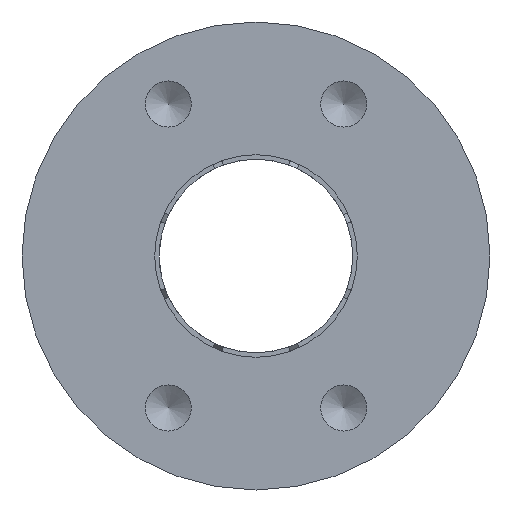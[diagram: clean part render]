
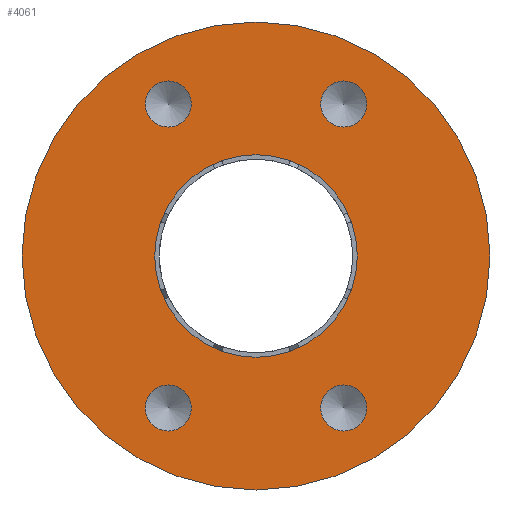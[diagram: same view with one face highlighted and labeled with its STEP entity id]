
A CAD part, front view. The second image highlights one B-rep face of the part: STEP entity #4061.
In plain terms, the highlighted planar face has unit normal (0, -1, 0) as drawn and (0, 0, 1) by its records, which use the part's own axes.
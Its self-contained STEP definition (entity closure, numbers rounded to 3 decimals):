
#59 = DIRECTION ( 'NONE',  ( 1., 0., 0. ) ) ;
#60 = FACE_BOUND ( 'NONE', #1750, .T. ) ;
#96 = CARTESIAN_POINT ( 'NONE',  ( 12.025, 16.498, 50.8 ) ) ;
#135 = DIRECTION ( 'NONE',  ( 0., 1., 0. ) ) ;
#310 = EDGE_CURVE ( 'NONE', #1662, #1662, #2676, .T. ) ;
#466 = CARTESIAN_POINT ( 'NONE',  ( -7.025, 16.498, 50.8 ) ) ;
#583 = CARTESIAN_POINT ( 'NONE',  ( 0., 0., 50.8 ) ) ;
#593 = DIRECTION ( 'NONE',  ( 0., 0., 1. ) ) ;
#691 = DIRECTION ( 'NONE',  ( 1., 0., 0. ) ) ;
#692 = EDGE_LOOP ( 'NONE', ( #2645 ) ) ;
#1126 = CARTESIAN_POINT ( 'NONE',  ( -9.525, 16.498, 50.8 ) ) ;
#1158 = CIRCLE ( 'NONE', #4084, 11. ) ;
#1417 = CIRCLE ( 'NONE', #4574, 2.5 ) ;
#1603 = FACE_BOUND ( 'NONE', #692, .T. ) ;
#1662 = VERTEX_POINT ( 'NONE', #4110 ) ;
#1750 = EDGE_LOOP ( 'NONE', ( #3904 ) ) ;
#2019 = AXIS2_PLACEMENT_3D ( 'NONE', #2372, #5461, #2408 ) ;
#2021 = AXIS2_PLACEMENT_3D ( 'NONE', #3207, #593, #691 ) ;
#2150 = DIRECTION ( 'NONE',  ( 0., 0., -1. ) ) ;
#2300 = CARTESIAN_POINT ( 'NONE',  ( -7.025, -16.498, 50.8 ) ) ;
#2372 = CARTESIAN_POINT ( 'NONE',  ( 0., 0., 50.8 ) ) ;
#2404 = EDGE_CURVE ( 'NONE', #2623, #2623, #4952, .T. ) ;
#2408 = DIRECTION ( 'NONE',  ( 0., 1., 0. ) ) ;
#2441 = EDGE_CURVE ( 'NONE', #5134, #5134, #5065, .T. ) ;
#2518 = ORIENTED_EDGE ( 'NONE', *, *, #2441, .F. ) ;
#2623 = VERTEX_POINT ( 'NONE', #6289 ) ;
#2642 = DIRECTION ( 'NONE',  ( 0., 0., 1. ) ) ;
#2645 = ORIENTED_EDGE ( 'NONE', *, *, #6645, .F. ) ;
#2676 = CIRCLE ( 'NONE', #2019, 25.4 ) ;
#2712 = CARTESIAN_POINT ( 'NONE',  ( -9.525, -16.498, 50.8 ) ) ;
#2781 = VERTEX_POINT ( 'NONE', #2300 ) ;
#2823 = EDGE_CURVE ( 'NONE', #5643, #5643, #3974, .T. ) ;
#3081 = VERTEX_POINT ( 'NONE', #5207 ) ;
#3110 = EDGE_CURVE ( 'NONE', #3081, #3081, #1158, .T. ) ;
#3167 = FACE_BOUND ( 'NONE', #6001, .T. ) ;
#3207 = CARTESIAN_POINT ( 'NONE',  ( 9.525, 16.498, 50.8 ) ) ;
#3220 = AXIS2_PLACEMENT_3D ( 'NONE', #5284, #5254, #3298 ) ;
#3263 = EDGE_LOOP ( 'NONE', ( #5255 ) ) ;
#3298 = DIRECTION ( 'NONE',  ( 1., 0., 0. ) ) ;
#3324 = AXIS2_PLACEMENT_3D ( 'NONE', #1126, #3730, #59 ) ;
#3632 = ORIENTED_EDGE ( 'NONE', *, *, #3110, .T. ) ;
#3661 = AXIS2_PLACEMENT_3D ( 'NONE', #583, #2150, #135 ) ;
#3730 = DIRECTION ( 'NONE',  ( 0., 0., 1. ) ) ;
#3904 = ORIENTED_EDGE ( 'NONE', *, *, #2823, .F. ) ;
#3964 = DIRECTION ( 'NONE',  ( 0., 0., -1. ) ) ;
#3974 = CIRCLE ( 'NONE', #3324, 2.5 ) ;
#4061 = ADVANCED_FACE ( 'NONE', ( #60, #5846, #5270, #1603, #5245, #3167 ), #5308, .F. ) ;
#4084 = AXIS2_PLACEMENT_3D ( 'NONE', #6086, #3964, #5099 ) ;
#4110 = CARTESIAN_POINT ( 'NONE',  ( 0., 25.4, 50.8 ) ) ;
#4223 = EDGE_LOOP ( 'NONE', ( #4748 ) ) ;
#4574 = AXIS2_PLACEMENT_3D ( 'NONE', #2712, #2642, #4644 ) ;
#4644 = DIRECTION ( 'NONE',  ( 1., 0., 0. ) ) ;
#4748 = ORIENTED_EDGE ( 'NONE', *, *, #310, .F. ) ;
#4952 = CIRCLE ( 'NONE', #3220, 2.5 ) ;
#5065 = CIRCLE ( 'NONE', #2021, 2.5 ) ;
#5099 = DIRECTION ( 'NONE',  ( 0., 1., 0. ) ) ;
#5134 = VERTEX_POINT ( 'NONE', #96 ) ;
#5207 = CARTESIAN_POINT ( 'NONE',  ( 0., 11., 50.8 ) ) ;
#5245 = FACE_OUTER_BOUND ( 'NONE', #4223, .T. ) ;
#5254 = DIRECTION ( 'NONE',  ( 0., 0., 1. ) ) ;
#5255 = ORIENTED_EDGE ( 'NONE', *, *, #2404, .F. ) ;
#5270 = FACE_BOUND ( 'NONE', #3263, .T. ) ;
#5284 = CARTESIAN_POINT ( 'NONE',  ( 9.525, -16.498, 50.8 ) ) ;
#5308 = PLANE ( 'NONE',  #3661 ) ;
#5461 = DIRECTION ( 'NONE',  ( 0., 0., -1. ) ) ;
#5515 = EDGE_LOOP ( 'NONE', ( #2518 ) ) ;
#5643 = VERTEX_POINT ( 'NONE', #466 ) ;
#5846 = FACE_BOUND ( 'NONE', #5515, .T. ) ;
#6001 = EDGE_LOOP ( 'NONE', ( #3632 ) ) ;
#6086 = CARTESIAN_POINT ( 'NONE',  ( 0., 0., 50.8 ) ) ;
#6289 = CARTESIAN_POINT ( 'NONE',  ( 12.025, -16.498, 50.8 ) ) ;
#6645 = EDGE_CURVE ( 'NONE', #2781, #2781, #1417, .T. ) ;
